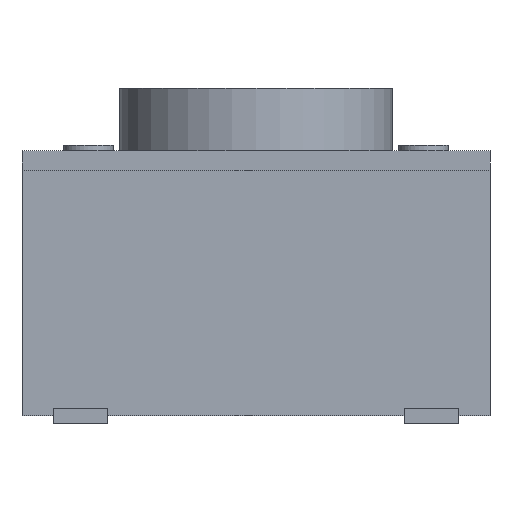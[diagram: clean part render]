
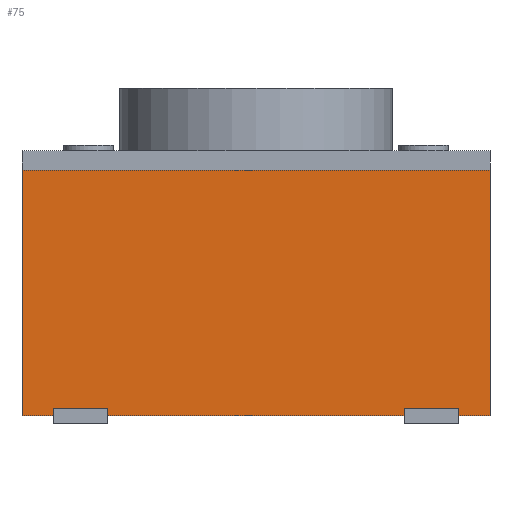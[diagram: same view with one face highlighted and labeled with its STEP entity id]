
A CAD part, left-side view. The second image highlights one B-rep face of the part: STEP entity #75.
In plain terms, the highlighted planar face has unit normal (-1, 0, 0).
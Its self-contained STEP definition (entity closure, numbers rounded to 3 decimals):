
#75 = ADVANCED_FACE('',(#76),#90,.F.);
#76 = FACE_BOUND('',#77,.F.);
#77 = EDGE_LOOP('',(#78,#113,#141,#169));
#78 = ORIENTED_EDGE('',*,*,#79,.F.);
#79 = EDGE_CURVE('',#80,#82,#84,.T.);
#80 = VERTEX_POINT('',#81);
#81 = CARTESIAN_POINT('',(-3.,-3.,0.1));
#82 = VERTEX_POINT('',#83);
#83 = CARTESIAN_POINT('',(-3.,-3.,3.25));
#84 = SURFACE_CURVE('',#85,(#89,#101),.PCURVE_S1.);
#85 = LINE('',#86,#87);
#86 = CARTESIAN_POINT('',(-3.,-3.,0.1));
#87 = VECTOR('',#88,1.);
#88 = DIRECTION('',(0.,0.,1.));
#89 = PCURVE('',#90,#95);
#90 = PLANE('',#91);
#91 = AXIS2_PLACEMENT_3D('',#92,#93,#94);
#92 = CARTESIAN_POINT('',(-3.,-3.,0.1));
#93 = DIRECTION('',(1.,0.,0.));
#94 = DIRECTION('',(0.,0.,1.));
#95 = DEFINITIONAL_REPRESENTATION('',(#96),#100);
#96 = LINE('',#97,#98);
#97 = CARTESIAN_POINT('',(0.,0.));
#98 = VECTOR('',#99,1.);
#99 = DIRECTION('',(1.,0.));
#100 = ( GEOMETRIC_REPRESENTATION_CONTEXT(2) 
PARAMETRIC_REPRESENTATION_CONTEXT() REPRESENTATION_CONTEXT('2D SPACE',''
  ) );
#101 = PCURVE('',#102,#107);
#102 = PLANE('',#103);
#103 = AXIS2_PLACEMENT_3D('',#104,#105,#106);
#104 = CARTESIAN_POINT('',(-3.,-3.,0.1));
#105 = DIRECTION('',(0.,1.,0.));
#106 = DIRECTION('',(0.,0.,1.));
#107 = DEFINITIONAL_REPRESENTATION('',(#108),#112);
#108 = LINE('',#109,#110);
#109 = CARTESIAN_POINT('',(0.,0.));
#110 = VECTOR('',#111,1.);
#111 = DIRECTION('',(1.,0.));
#112 = ( GEOMETRIC_REPRESENTATION_CONTEXT(2) 
PARAMETRIC_REPRESENTATION_CONTEXT() REPRESENTATION_CONTEXT('2D SPACE',''
  ) );
#113 = ORIENTED_EDGE('',*,*,#114,.T.);
#114 = EDGE_CURVE('',#80,#115,#117,.T.);
#115 = VERTEX_POINT('',#116);
#116 = CARTESIAN_POINT('',(-3.,3.,0.1));
#117 = SURFACE_CURVE('',#118,(#122,#129),.PCURVE_S1.);
#118 = LINE('',#119,#120);
#119 = CARTESIAN_POINT('',(-3.,-3.,0.1));
#120 = VECTOR('',#121,1.);
#121 = DIRECTION('',(0.,1.,0.));
#122 = PCURVE('',#90,#123);
#123 = DEFINITIONAL_REPRESENTATION('',(#124),#128);
#124 = LINE('',#125,#126);
#125 = CARTESIAN_POINT('',(0.,0.));
#126 = VECTOR('',#127,1.);
#127 = DIRECTION('',(0.,-1.));
#128 = ( GEOMETRIC_REPRESENTATION_CONTEXT(2) 
PARAMETRIC_REPRESENTATION_CONTEXT() REPRESENTATION_CONTEXT('2D SPACE',''
  ) );
#129 = PCURVE('',#130,#135);
#130 = PLANE('',#131);
#131 = AXIS2_PLACEMENT_3D('',#132,#133,#134);
#132 = CARTESIAN_POINT('',(-3.,-3.,0.1));
#133 = DIRECTION('',(0.,0.,1.));
#134 = DIRECTION('',(1.,0.,0.));
#135 = DEFINITIONAL_REPRESENTATION('',(#136),#140);
#136 = LINE('',#137,#138);
#137 = CARTESIAN_POINT('',(0.,0.));
#138 = VECTOR('',#139,1.);
#139 = DIRECTION('',(0.,1.));
#140 = ( GEOMETRIC_REPRESENTATION_CONTEXT(2) 
PARAMETRIC_REPRESENTATION_CONTEXT() REPRESENTATION_CONTEXT('2D SPACE',''
  ) );
#141 = ORIENTED_EDGE('',*,*,#142,.T.);
#142 = EDGE_CURVE('',#115,#143,#145,.T.);
#143 = VERTEX_POINT('',#144);
#144 = CARTESIAN_POINT('',(-3.,3.,3.25));
#145 = SURFACE_CURVE('',#146,(#150,#157),.PCURVE_S1.);
#146 = LINE('',#147,#148);
#147 = CARTESIAN_POINT('',(-3.,3.,0.1));
#148 = VECTOR('',#149,1.);
#149 = DIRECTION('',(0.,0.,1.));
#150 = PCURVE('',#90,#151);
#151 = DEFINITIONAL_REPRESENTATION('',(#152),#156);
#152 = LINE('',#153,#154);
#153 = CARTESIAN_POINT('',(0.,-6.));
#154 = VECTOR('',#155,1.);
#155 = DIRECTION('',(1.,0.));
#156 = ( GEOMETRIC_REPRESENTATION_CONTEXT(2) 
PARAMETRIC_REPRESENTATION_CONTEXT() REPRESENTATION_CONTEXT('2D SPACE',''
  ) );
#157 = PCURVE('',#158,#163);
#158 = PLANE('',#159);
#159 = AXIS2_PLACEMENT_3D('',#160,#161,#162);
#160 = CARTESIAN_POINT('',(-3.,3.,0.1));
#161 = DIRECTION('',(0.,1.,0.));
#162 = DIRECTION('',(0.,0.,1.));
#163 = DEFINITIONAL_REPRESENTATION('',(#164),#168);
#164 = LINE('',#165,#166);
#165 = CARTESIAN_POINT('',(0.,0.));
#166 = VECTOR('',#167,1.);
#167 = DIRECTION('',(1.,0.));
#168 = ( GEOMETRIC_REPRESENTATION_CONTEXT(2) 
PARAMETRIC_REPRESENTATION_CONTEXT() REPRESENTATION_CONTEXT('2D SPACE',''
  ) );
#169 = ORIENTED_EDGE('',*,*,#170,.F.);
#170 = EDGE_CURVE('',#82,#143,#171,.T.);
#171 = SURFACE_CURVE('',#172,(#176,#183),.PCURVE_S1.);
#172 = LINE('',#173,#174);
#173 = CARTESIAN_POINT('',(-3.,-3.,3.25));
#174 = VECTOR('',#175,1.);
#175 = DIRECTION('',(0.,1.,0.));
#176 = PCURVE('',#90,#177);
#177 = DEFINITIONAL_REPRESENTATION('',(#178),#182);
#178 = LINE('',#179,#180);
#179 = CARTESIAN_POINT('',(3.15,0.));
#180 = VECTOR('',#181,1.);
#181 = DIRECTION('',(0.,-1.));
#182 = ( GEOMETRIC_REPRESENTATION_CONTEXT(2) 
PARAMETRIC_REPRESENTATION_CONTEXT() REPRESENTATION_CONTEXT('2D SPACE',''
  ) );
#183 = PCURVE('',#184,#189);
#184 = PLANE('',#185);
#185 = AXIS2_PLACEMENT_3D('',#186,#187,#188);
#186 = CARTESIAN_POINT('',(-3.,-3.,3.25));
#187 = DIRECTION('',(0.,0.,1.));
#188 = DIRECTION('',(1.,0.,0.));
#189 = DEFINITIONAL_REPRESENTATION('',(#190),#194);
#190 = LINE('',#191,#192);
#191 = CARTESIAN_POINT('',(0.,0.));
#192 = VECTOR('',#193,1.);
#193 = DIRECTION('',(0.,1.));
#194 = ( GEOMETRIC_REPRESENTATION_CONTEXT(2) 
PARAMETRIC_REPRESENTATION_CONTEXT() REPRESENTATION_CONTEXT('2D SPACE',''
  ) );
